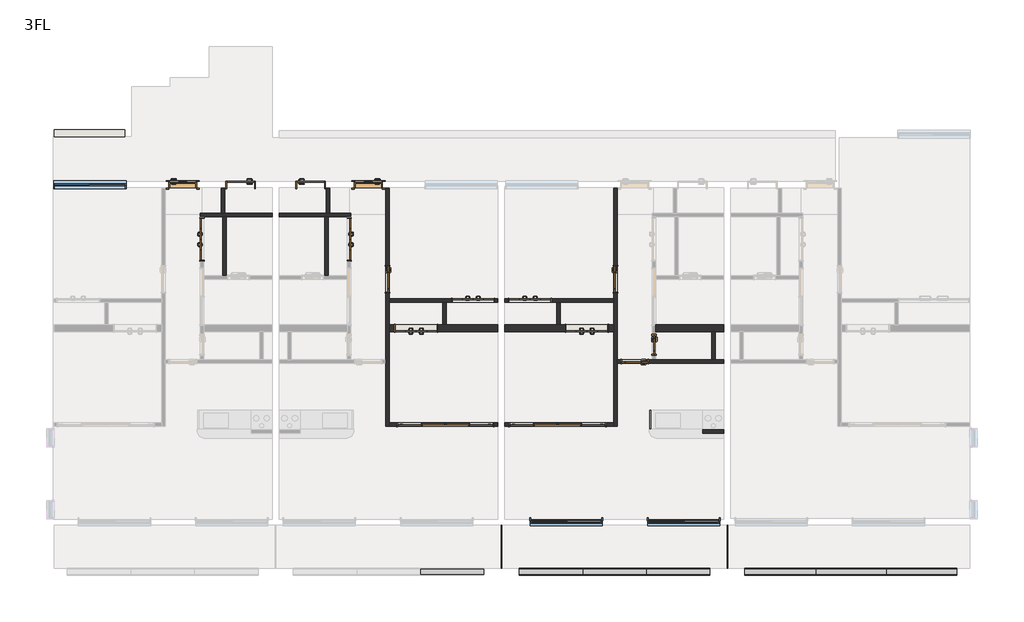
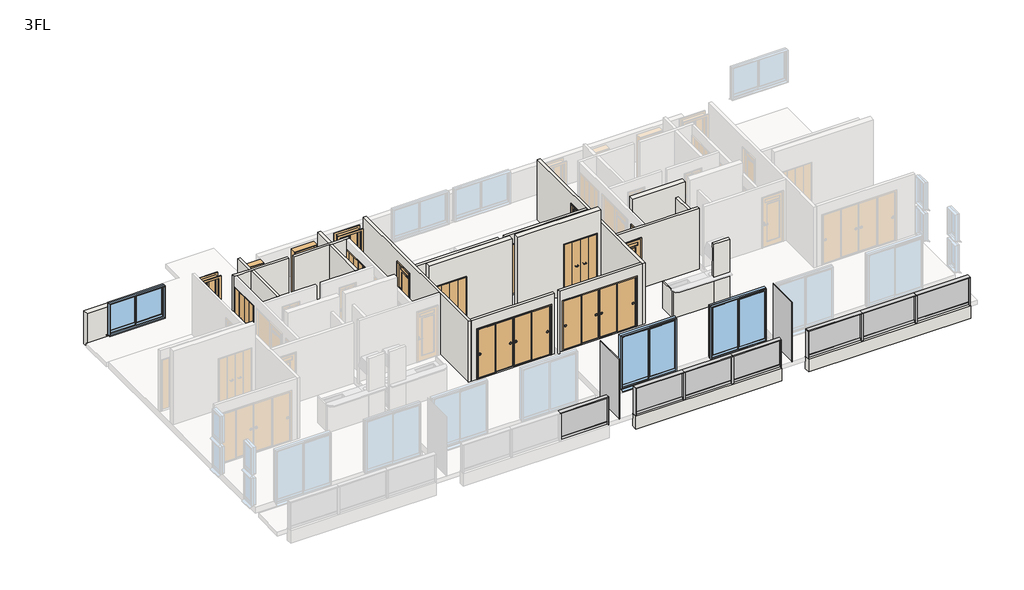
# One storey, part 2 of 3: 25 walls, 16 doors, 16 members, 9 plates, 3 windows.
"""IFC4 building model written with IfcOpenShell, lengths in millimetres."""

from ifc_helpers import new_model, si_unit, frame, origin, place, context, project, spatial, polyline, outline, extrude, faceted_brep, transform, mapped, element, save
from components import door_800x2000_a7d1584b, door_800x2000_010bfebf, w1200h2000_98cacc9b, w1200h2000_ebe1d490, w1200h2000_6a144d60, w1200h2000_99d19fb3, w2800h2000_670b855b, w2800h2000_04aa64cd, w600h2000_7f2747f4, w800h2000_1d97c4d4, w800h2000_0ab7d42c, w800h2000_13e9f519, w800h2000_ccb03061, member_25x150_3f8205e2, member_25x150_f694351b, member_25x150_e95393f9, member_70x150_851c8a9b, plate_6aa9e5b9, plate_9f48129f, plate_365944b3, plate_b830f844, plate_2f85ae4c, window_2000x1200_fc91d1cf, window_2000x2000_f1ff98da

model = new_model("IFC4")

# Units and contexts
model_context = context("Model", 3, world=origin())
ifc_project = project(units=[si_unit("LENGTHUNIT", "METRE", prefix="MILLI")], contexts=[model_context])

# Site, building, storey
site = spatial("IfcSite", under=ifc_project)
building = spatial("IfcBuilding", under=site)
storey = spatial("IfcBuildingStorey", under=building, Name="3FL", Elevation=7000.0)

# Doors
placement = place(None, origin())
door_800x2000_shape = door_800x2000_a7d1584b(model_context)
element("IfcDoor", 1, ObjectType="片開き3 : 800x2000", at=placement, inside=storey, context=model_context, shape_type="MappedRepresentation", body=[
    mapped(door_800x2000_shape, transform((-7378.7187246, -5726.3671638, 7000.0), x_axis=(1.0, 0.0, 0.0), y_axis=(0.0, 1.0, 0.0), z_axis=(0.0, 0.0, 1.0))),
])
door_800x2000_2_shape = door_800x2000_010bfebf(model_context)
element("IfcDoor", 2, ObjectType="片開き3 : 800x2000", at=placement, inside=storey, context=model_context, shape_type="MappedRepresentation", body=[
    mapped(door_800x2000_2_shape, transform((-2078.7187246, -5726.3671638, 7000.0), x_axis=(-1.0, 0.0, 0.0), y_axis=(0.0, -1.0, 0.0), z_axis=(0.0, 0.0, 1.0))),
])
w1200h2000_shape = w1200h2000_98cacc9b(model_context)
element("IfcDoor", 3, ObjectType="木製折戸 : w1200h2000", at=placement, inside=storey, context=model_context, shape_type="MappedRepresentation", body=[
    mapped(w1200h2000_shape, transform((4158.7812754, -9820.1171638, 7100.0), x_axis=(-1.0, 0.0, 0.0), y_axis=(0.0, -1.0, 0.0), z_axis=(0.0, 0.0, 1.0))),
])
w1200h2000_2_shape = w1200h2000_ebe1d490(model_context)
element("IfcDoor", 4, ObjectType="木製折戸 : w1200h2000", at=placement, inside=storey, context=model_context, shape_type="MappedRepresentation", body=[
    mapped(w1200h2000_2_shape, transform((-716.2187246, -9820.1171638, 7100.0), x_axis=(1.0, 0.0, 0.0), y_axis=(0.0, 1.0, 0.0), z_axis=(0.0, 0.0, 1.0))),
])
w1200h2000_3_shape = w1200h2000_6a144d60(model_context)
element("IfcDoor", 5, ObjectType="木製折戸 : w1200h2000", at=placement, inside=storey, context=model_context, shape_type="MappedRepresentation", body=[
    mapped(w1200h2000_3_shape, transform((-6828.7187246, -7280.1171638, 7100.0), x_axis=(0.0, 1.0, 0.0), y_axis=(-1.0, 0.0, 0.0), z_axis=(0.0, 0.0, 1.0))),
])
element("IfcDoor", 6, ObjectType="木製折戸 : w1200h2000", at=placement, inside=storey, context=model_context, shape_type="MappedRepresentation", body=[
    mapped(w1200h2000_3_shape, transform((2533.7812754, -9020.1171638, 7100.0), x_axis=(1.0, 0.0, 0.0), y_axis=(0.0, 1.0, 0.0), z_axis=(0.0, 0.0, 1.0))),
])
w1200h2000_4_shape = w1200h2000_99d19fb3(model_context)
element("IfcDoor", 7, ObjectType="木製折戸 : w1200h2000", at=placement, inside=storey, context=model_context, shape_type="MappedRepresentation", body=[
    mapped(w1200h2000_4_shape, transform((908.7812754, -9020.1171638, 7100.0), x_axis=(-1.0, 0.0, 0.0), y_axis=(0.0, -1.0, 0.0), z_axis=(0.0, 0.0, 1.0))),
])
element("IfcDoor", 8, ObjectType="木製折戸 : w1200h2000", at=placement, inside=storey, context=model_context, shape_type="MappedRepresentation", body=[
    mapped(w1200h2000_4_shape, transform((-2628.7187246, -7280.1171638, 7100.0), x_axis=(0.0, 1.0, 0.0), y_axis=(-1.0, 0.0, 0.0), z_axis=(0.0, 0.0, 1.0))),
])
w2800h2000_shape = w2800h2000_670b855b(model_context)
element("IfcDoor", 9, ObjectType="引違い 4 枚 2 溝_襖 : w2800h2000", at=placement, inside=storey, context=model_context, shape_type="MappedRepresentation", body=[
    mapped(w2800h2000_shape, transform((3315.7457714, -12570.1171638, 7100.0), x_axis=(-1.0, 0.0, 0.0), y_axis=(0.0, -1.0, 0.0), z_axis=(0.0, 0.0, 1.0))),
])
w2800h2000_2_shape = w2800h2000_04aa64cd(model_context)
element("IfcDoor", 10, ObjectType="引違い 4 枚 2 溝_襖 : w2800h2000", at=placement, inside=storey, context=model_context, shape_type="MappedRepresentation", body=[
    mapped(w2800h2000_2_shape, transform((126.8167793, -12570.1171638, 7100.0), x_axis=(1.0, 0.0, 0.0), y_axis=(0.0, 1.0, 0.0), z_axis=(0.0, 0.0, 1.0))),
])
w600h2000_shape = w600h2000_7f2747f4(model_context)
element("IfcDoor", 11, ObjectType="片開戸CL2058 : w600h2000", at=placement, inside=storey, context=model_context, shape_type="MappedRepresentation", body=[
    mapped(w600h2000_shape, transform((6071.2812754, -10295.1171638, 7100.0), x_axis=(0.0, -1.0, 0.0), y_axis=(1.0, 0.0, 0.0), z_axis=(0.0, 0.0, 1.0))),
])
w800h2000_shape = w800h2000_1d97c4d4(model_context)
element("IfcDoor", 12, ObjectType="片開 : w800h2000", at=placement, inside=storey, context=model_context, shape_type="MappedRepresentation", body=[
    mapped(w800h2000_shape, transform((-5728.7187246, -5726.3671638, 7000.0), x_axis=(-1.0, 0.0, 0.0), y_axis=(0.0, -1.0, 0.0), z_axis=(0.0, 0.0, 1.0))),
])
w800h2000_2_shape = w800h2000_0ab7d42c(model_context)
element("IfcDoor", 13, ObjectType="片開 : w800h2000", at=placement, inside=storey, context=model_context, shape_type="MappedRepresentation", body=[
    mapped(w800h2000_2_shape, transform((-3728.7187246, -5726.3671638, 7000.0), x_axis=(1.0, 0.0, 0.0), y_axis=(0.0, 1.0, 0.0), z_axis=(0.0, 0.0, 1.0))),
])
w800h2000_3_shape = w800h2000_13e9f519(model_context)
element("IfcDoor", 14, ObjectType="片開戸CL2058 : w800h2000", at=placement, inside=storey, context=model_context, shape_type="MappedRepresentation", body=[
    mapped(w800h2000_3_shape, transform((4971.2812754, -8420.1171638, 7100.0), x_axis=(0.0, -1.0, 0.0), y_axis=(1.0, 0.0, 0.0), z_axis=(0.0, 0.0, 1.0))),
])
w800h2000_4_shape = w800h2000_ccb03061(model_context)
element("IfcDoor", 15, ObjectType="片開戸CL2058 : w800h2000", at=placement, inside=storey, context=model_context, shape_type="MappedRepresentation", body=[
    mapped(w800h2000_4_shape, transform((-1528.7187246, -8420.1171638, 7100.0), x_axis=(0.0, -1.0, 0.0), y_axis=(1.0, 0.0, 0.0), z_axis=(0.0, 0.0, 1.0))),
])
element("IfcDoor", 16, ObjectType="片開戸CL2058 : w800h2000", at=placement, inside=storey, context=model_context, shape_type="MappedRepresentation", body=[
    mapped(w800h2000_4_shape, transform((5521.2812754, -10770.1171638, 7100.0), x_axis=(-1.0, 0.0, 0.0), y_axis=(0.0, -1.0, 0.0), z_axis=(0.0, 0.0, 1.0))),
])

# Members
member_25x150_shape = member_25x150_3f8205e2(model_context)
element("IfcMember", 17, ObjectType="長方形のマリオン : 25x150", at=placement, inside=storey, context=model_context, shape_type="MappedRepresentation", body=[
    mapped(member_25x150_shape, transform((1221.2812754, -16770.1171638, 7000.0), x_axis=(1.0, 0.0, 0.0), y_axis=(0.0, -1.0, 0.0), z_axis=(0.0, 0.0, -1.0))),
])
element("IfcMember", 18, ObjectType="長方形のマリオン : 25x150", at=placement, inside=storey, context=model_context, shape_type="MappedRepresentation", body=[
    mapped(member_25x150_shape, transform((7671.2812754, -16770.1171638, 7000.0), x_axis=(1.0, 0.0, 0.0), y_axis=(0.0, -1.0, 0.0), z_axis=(0.0, 0.0, -1.0))),
])
element("IfcMember", 19, ObjectType="長方形のマリオン : 25x150", at=placement, inside=storey, context=model_context, shape_type="MappedRepresentation", body=[
    mapped(member_25x150_shape, transform((14721.2812754, -16770.1171638, 7000.0), x_axis=(1.0, 0.0, 0.0), y_axis=(0.0, -1.0, 0.0), z_axis=(0.0, 0.0, -1.0))),
])
element("IfcMember", 20, ObjectType="長方形のマリオン : 25x150", at=placement, inside=storey, context=model_context, shape_type="MappedRepresentation", body=[
    mapped(member_25x150_shape, transform((2221.2812754, -16770.1171638, 8075.0), x_axis=(-1.0, 0.0, 0.0), y_axis=(0.0, -1.0, 0.0), z_axis=(0.0, 0.0, 1.0))),
])
element("IfcMember", 21, ObjectType="長方形のマリオン : 25x150", at=placement, inside=storey, context=model_context, shape_type="MappedRepresentation", body=[
    mapped(member_25x150_shape, transform((8671.2812754, -16770.1171638, 8075.0), x_axis=(-1.0, 0.0, 0.0), y_axis=(0.0, -1.0, 0.0), z_axis=(0.0, 0.0, 1.0))),
])
member_25x150_2_shape = member_25x150_f694351b(model_context)
element("IfcMember", 22, ObjectType="長方形のマリオン : 25x150", at=placement, inside=storey, context=model_context, shape_type="MappedRepresentation", body=[
    mapped(member_25x150_2_shape, transform((1221.2812754, -16770.1171638, 8100.0), x_axis=(0.0, 0.0, 1.0), y_axis=(0.0, -1.0, 0.0), z_axis=(1.0, 0.0, 0.0))),
])
element("IfcMember", 23, ObjectType="長方形のマリオン : 25x150", at=placement, inside=storey, context=model_context, shape_type="MappedRepresentation", body=[
    mapped(member_25x150_2_shape, transform((7671.2812754, -16770.1171638, 8100.0), x_axis=(0.0, 0.0, 1.0), y_axis=(0.0, -1.0, 0.0), z_axis=(1.0, 0.0, 0.0))),
])
element("IfcMember", 24, ObjectType="長方形のマリオン : 25x150", at=placement, inside=storey, context=model_context, shape_type="MappedRepresentation", body=[
    mapped(member_25x150_2_shape, transform((4037.947942, -16770.1171638, 8100.0), x_axis=(0.0, 0.0, 1.0), y_axis=(0.0, -1.0, 0.0), z_axis=(1.0, 0.0, 0.0))),
])
element("IfcMember", 25, ObjectType="長方形のマリオン : 25x150", at=placement, inside=storey, context=model_context, shape_type="MappedRepresentation", body=[
    mapped(member_25x150_2_shape, transform((5854.6146087, -16770.1171638, 8100.0), x_axis=(0.0, 0.0, 1.0), y_axis=(0.0, -1.0, 0.0), z_axis=(1.0, 0.0, 0.0))),
])
member_25x150_3_shape = member_25x150_e95393f9(model_context)
element("IfcMember", 26, ObjectType="長方形のマリオン : 25x150", at=placement, inside=storey, context=model_context, shape_type="MappedRepresentation", body=[
    mapped(member_25x150_3_shape, transform((14721.2812754, -16770.1171638, 8100.0), x_axis=(0.0, 0.0, 1.0), y_axis=(0.0, -1.0, 0.0), z_axis=(1.0, 0.0, 0.0))),
])
element("IfcMember", 27, ObjectType="長方形のマリオン : 25x150", at=placement, inside=storey, context=model_context, shape_type="MappedRepresentation", body=[
    mapped(member_25x150_3_shape, transform((10687.947942, -16770.1171638, 8100.0), x_axis=(0.0, 0.0, 1.0), y_axis=(0.0, -1.0, 0.0), z_axis=(1.0, 0.0, 0.0))),
])
element("IfcMember", 28, ObjectType="長方形のマリオン : 25x150", at=placement, inside=storey, context=model_context, shape_type="MappedRepresentation", body=[
    mapped(member_25x150_3_shape, transform((12704.6146087, -16770.1171638, 8100.0), x_axis=(0.0, 0.0, 1.0), y_axis=(0.0, -1.0, 0.0), z_axis=(1.0, 0.0, 0.0))),
])
member_70x150_shape = member_70x150_851c8a9b(model_context)
element("IfcMember", 29, ObjectType="長方形のマリオン : 70x150", at=placement, inside=storey, context=model_context, shape_type="MappedRepresentation", body=[
    mapped(member_70x150_shape, transform((4037.947942, -16770.1171638, 7000.0), x_axis=(1.0, 0.0, 0.0), y_axis=(0.0, -1.0, 0.0), z_axis=(0.0, 0.0, -1.0))),
])
element("IfcMember", 30, ObjectType="長方形のマリオン : 70x150", at=placement, inside=storey, context=model_context, shape_type="MappedRepresentation", body=[
    mapped(member_70x150_shape, transform((5854.6146087, -16770.1171638, 7000.0), x_axis=(1.0, 0.0, 0.0), y_axis=(0.0, -1.0, 0.0), z_axis=(0.0, 0.0, -1.0))),
])
element("IfcMember", 31, ObjectType="長方形のマリオン : 70x150", at=placement, inside=storey, context=model_context, shape_type="MappedRepresentation", body=[
    mapped(member_70x150_shape, transform((10687.947942, -16770.1171638, 7000.0), x_axis=(1.0, 0.0, 0.0), y_axis=(0.0, -1.0, 0.0), z_axis=(0.0, 0.0, -1.0))),
])
element("IfcMember", 32, ObjectType="長方形のマリオン : 70x150", at=placement, inside=storey, context=model_context, shape_type="MappedRepresentation", body=[
    mapped(member_70x150_shape, transform((12704.6146087, -16770.1171638, 7000.0), x_axis=(1.0, 0.0, 0.0), y_axis=(0.0, -1.0, 0.0), z_axis=(0.0, 0.0, -1.0))),
])

# Plates
plate_shape = plate_6aa9e5b9(model_context)
element("IfcPlate", 33, ObjectType="システム パネル : 標準", at=placement, inside=storey, context=model_context, shape_type="MappedRepresentation", body=[
    mapped(plate_shape, transform((1721.2812754, -16056.9921638, 6950.0), x_axis=(0.0, -1.0, 0.0), y_axis=(1.0, 0.0, 0.0), z_axis=(0.0, 0.0, 1.0))),
])
element("IfcPlate", 34, ObjectType="システム パネル : 標準", at=placement, inside=storey, context=model_context, shape_type="MappedRepresentation", body=[
    mapped(plate_shape, transform((8171.2812754, -16056.9921638, 6950.0), x_axis=(0.0, -1.0, 0.0), y_axis=(1.0, 0.0, 0.0), z_axis=(0.0, 0.0, 1.0))),
])
plate_2_shape = plate_9f48129f(model_context)
element("IfcPlate", 35, ObjectType="r パネル FIX 下框付 : 框 H100", at=placement, inside=storey, context=model_context, shape_type="MappedRepresentation", body=[
    mapped(plate_2_shape, transform((317.947942, -16770.1171638, 7000.0), x_axis=(1.0, 0.0, 0.0), y_axis=(0.0, 1.0, 0.0), z_axis=(0.0, 0.0, 1.0))),
])
element("IfcPlate", 36, ObjectType="r パネル FIX 下框付 : 框 H100", at=placement, inside=storey, context=model_context, shape_type="MappedRepresentation", body=[
    mapped(plate_2_shape, transform((3124.6146087, -16770.1171638, 7000.0), x_axis=(1.0, 0.0, 0.0), y_axis=(0.0, 1.0, 0.0), z_axis=(0.0, 0.0, 1.0))),
])
element("IfcPlate", 37, ObjectType="r パネル FIX 下框付 : 框 H100", at=placement, inside=storey, context=model_context, shape_type="MappedRepresentation", body=[
    mapped(plate_2_shape, transform((6767.947942, -16770.1171638, 7000.0), x_axis=(1.0, 0.0, 0.0), y_axis=(0.0, 1.0, 0.0), z_axis=(0.0, 0.0, 1.0))),
])
plate_3_shape = plate_365944b3(model_context)
element("IfcPlate", 38, ObjectType="r パネル FIX 下框付 : 框 H100", at=placement, inside=storey, context=model_context, shape_type="MappedRepresentation", body=[
    mapped(plate_3_shape, transform((4946.2812754, -16770.1171638, 7000.0), x_axis=(1.0, 0.0, 0.0), y_axis=(0.0, 1.0, 0.0), z_axis=(0.0, 0.0, 1.0))),
])
plate_4_shape = plate_b830f844(model_context)
element("IfcPlate", 39, ObjectType="r パネル FIX 下框付 : 框 H100", at=placement, inside=storey, context=model_context, shape_type="MappedRepresentation", body=[
    mapped(plate_4_shape, transform((9674.6146087, -16770.1171638, 7000.0), x_axis=(1.0, 0.0, 0.0), y_axis=(0.0, 1.0, 0.0), z_axis=(0.0, 0.0, 1.0))),
])
element("IfcPlate", 40, ObjectType="r パネル FIX 下框付 : 框 H100", at=placement, inside=storey, context=model_context, shape_type="MappedRepresentation", body=[
    mapped(plate_4_shape, transform((13717.947942, -16770.1171638, 7000.0), x_axis=(1.0, 0.0, 0.0), y_axis=(0.0, 1.0, 0.0), z_axis=(0.0, 0.0, 1.0))),
])
plate_5_shape = plate_2f85ae4c(model_context)
element("IfcPlate", 41, ObjectType="r パネル FIX 下框付 : 框 H100", at=placement, inside=storey, context=model_context, shape_type="MappedRepresentation", body=[
    mapped(plate_5_shape, transform((11696.2812754, -16770.1171638, 7000.0), x_axis=(1.0, 0.0, 0.0), y_axis=(0.0, 1.0, 0.0), z_axis=(0.0, 0.0, 1.0))),
])

# Walls
element("IfcWall", 42, ObjectType="内壁(R)RC200", at=placement, inside=storey, context=model_context, shape_type="Brep", body=[
    faceted_brep([(1621.2812754, -9720.1171638, 7000.0), (146.2812754, -9720.1171638, 7000.0), (46.2812754, -9720.1171638, 7000.0), (-1478.7187246, -9720.1171638, 7000.0), (-1478.7187246, -9720.1171638, 10000.0), (1621.2812754, -9720.1171638, 10000.0), (-96.2187246, -9720.1171638, 9120.0), (-1336.2187246, -9720.1171638, 9120.0), (-1336.2187246, -9720.1171638, 7100.0), (-96.2187246, -9720.1171638, 7100.0), (1621.2812754, -9920.1171638, 7000.0), (1621.2812754, -9920.1171638, 10000.0), (-1478.7187246, -9920.1171638, 10000.0), (-1478.7187246, -9920.1171638, 7000.0), (-96.2187246, -9920.1171638, 9120.0), (-96.2187246, -9920.1171638, 7100.0), (-1336.2187246, -9920.1171638, 7100.0), (-1336.2187246, -9920.1171638, 9120.0)], [[[0, 1, 2, 3, 4, 5], [6, 7, 8, 9]], [[10, 11, 12, 13], [14, 15, 16, 17]], [[3, 2, 1, 0, 10, 13]], [[5, 4, 12, 11]], [[15, 14, 6, 9]], [[16, 15, 9, 8]], [[17, 16, 8, 7]], [[14, 17, 7, 6]], [[0, 5, 11, 10]], [[4, 3, 13, 12]]]),
])
element("IfcWall", 43, ObjectType="内壁(R)RC200", at=placement, inside=storey, context=model_context, shape_type="Brep", body=[
    faceted_brep([(1821.2812754, -9920.1171638, 7000.0), (4921.2812754, -9920.1171638, 7000.0), (4921.2812754, -9920.1171638, 10000.0), (1821.2812754, -9920.1171638, 10000.0), (3538.7812754, -9920.1171638, 9120.0), (4778.7812754, -9920.1171638, 9120.0), (4778.7812754, -9920.1171638, 7100.0), (3538.7812754, -9920.1171638, 7100.0), (1821.2812754, -9720.1171638, 7000.0), (1821.2812754, -9720.1171638, 10000.0), (4921.2812754, -9720.1171638, 10000.0), (4921.2812754, -9720.1171638, 7000.0), (3396.2812754, -9720.1171638, 7000.0), (3296.2812754, -9720.1171638, 7000.0), (3538.7812754, -9720.1171638, 9120.0), (3538.7812754, -9720.1171638, 7100.0), (4778.7812754, -9720.1171638, 7100.0), (4778.7812754, -9720.1171638, 9120.0)], [[[0, 1, 2, 3], [4, 5, 6, 7]], [[8, 9, 10, 11, 12, 13], [14, 15, 16, 17]], [[1, 0, 8, 13, 12, 11]], [[3, 2, 10, 9]], [[15, 14, 4, 7]], [[16, 15, 7, 6]], [[17, 16, 6, 5]], [[14, 17, 5, 4]], [[0, 3, 9, 8]], [[2, 1, 11, 10]]]),
])
element("IfcWall", 44, ObjectType="内壁(R)RC200", at=placement, inside=storey, context=model_context, shape_type="Brep", body=[
    faceted_brep([(6121.2812754, -9920.1171638, 7000.0), (7721.2812754, -9920.1171638, 7000.0), (7821.2812754, -9920.1171638, 7000.0), (8071.2812754, -9920.1171638, 7000.0), (8071.2812754, -9920.1171638, 10000.0), (6121.2812754, -9920.1171638, 10000.0), (6121.2812754, -9720.1171638, 7000.0), (6121.2812754, -9720.1171638, 10000.0), (8071.2812754, -9720.1171638, 10000.0), (8071.2812754, -9720.1171638, 7000.0)], [[[0, 1, 2, 3, 4, 5]], [[6, 7, 8, 9]], [[3, 2, 1, 0, 6, 9]], [[5, 4, 8, 7]], [[0, 5, 7, 6]], [[4, 3, 9, 8]]]),
])
element("IfcWall", 45, ObjectType="(R)RC200", at=placement, inside=storey, context=model_context, shape_type="SweptSolid", body=[
    extrude(outline(polyline([(-9028.7187246, -4350.1171638), (-11052.4687246, -4350.1171638), (-11052.4687246, -4150.1171638), (-9028.7187246, -4150.1171638), (-9028.7187246, -4350.1171638)])), frame((0.0, 0.0, 6800.0), z_axis=(0.0, 0.0, 1.0), x_axis=(1.0, 0.0, 0.0)), (0.0, 0.0, 1.0), 1300.0),
])
element("IfcWall", 46, ObjectType="(R)RC200", at=placement, inside=storey, context=model_context, shape_type="SweptSolid", body=[
    extrude(outline(polyline([(7671.2812754, -16870.1171638), (2221.2812754, -16870.1171638), (2221.2812754, -16670.1171638), (7671.2812754, -16670.1171638), (7671.2812754, -16870.1171638)])), frame((0.0, 0.0, 6500.0), z_axis=(0.0, 0.0, 1.0), x_axis=(1.0, 0.0, 0.0)), (0.0, 0.0, 1.0), 500.0),
])
element("IfcWall", 47, ObjectType="(R)RC200", at=placement, inside=storey, context=model_context, shape_type="SweptSolid", body=[
    extrude(outline(polyline([(14721.2812754, -16870.1171638), (8671.2812754, -16870.1171638), (8671.2812754, -16670.1171638), (14721.2812754, -16670.1171638), (14721.2812754, -16870.1171638)])), frame((0.0, 0.0, 6500.0), z_axis=(0.0, 0.0, 1.0), x_axis=(1.0, 0.0, 0.0)), (0.0, 0.0, 1.0), 500.0),
])
element("IfcWall", 48, ObjectType="(F)30", at=placement, inside=storey, context=model_context, shape_type="SweptSolid", body=[
    extrude(outline(polyline([(5948.8875596, -12720.1171638), (5948.8875596, -12165.1171638), (5978.8875596, -12165.1171638), (5978.8875596, -12720.1171638), (5948.8875596, -12720.1171638)])), frame((0.0, 0.0, 7100.0), z_axis=(0.0, 0.0, 1.0), x_axis=(1.0, 0.0, 0.0)), (0.0, 0.0, 1.0), 1060.0),
])
element("IfcWall", 49, ObjectType="(L1)LGS100", at=placement, inside=storey, context=model_context, shape_type="Brep", body=[
    faceted_brep([(-6878.7187246, -6630.1171638, 7000.0), (-6778.7187246, -6630.1171638, 7000.0), (-6238.7187246, -6630.1171638, 7000.0), (-6138.7187246, -6630.1171638, 7000.0), (-4828.7187246, -6630.1171638, 7000.0), (-4828.7187246, -6630.1171638, 9500.0), (-6138.7187246, -6630.1171638, 9500.0), (-6238.7187246, -6630.1171638, 9500.0), (-6778.7187246, -6630.1171638, 9500.0), (-6878.7187246, -6630.1171638, 9500.0), (-6878.7187246, -6530.1171638, 7000.0), (-6878.7187246, -6530.1171638, 9500.0), (-6278.7187246, -6530.1171638, 9500.0), (-6178.7187246, -6530.1171638, 9500.0), (-4828.7187246, -6530.1171638, 9500.0), (-4828.7187246, -6530.1171638, 7000.0), (-6178.7187246, -6530.1171638, 7000.0), (-6278.7187246, -6530.1171638, 7000.0)], [[[0, 1, 2, 3, 4, 5, 6, 7, 8, 9]], [[10, 11, 12, 13, 14, 15, 16, 17]], [[4, 3, 2, 1, 0, 10, 17, 16, 15]], [[9, 8, 7, 6, 5, 14, 13, 12, 11]], [[0, 9, 11, 10]], [[5, 4, 15, 14]]]),
])
element("IfcWall", 50, ObjectType="(L1)LGS100", at=placement, inside=storey, context=model_context, shape_type="SweptSolid", body=[
    extrude(outline(polyline([(-6178.7187246, -5826.3671638), (-6178.7187246, -6530.1171638), (-6278.7187246, -6530.1171638), (-6278.7187246, -5826.3671638), (-6178.7187246, -5826.3671638)])), frame((0.0, 0.0, 7000.0), z_axis=(0.0, 0.0, 1.0), x_axis=(1.0, 0.0, 0.0)), (0.0, 0.0, 1.0), 2500.0),
])
element("IfcWall", 51, ObjectType="(L1)LGS100", at=placement, inside=storey, context=model_context, shape_type="SweptSolid", body=[
    extrude(outline(polyline([(-6138.7187246, -6630.1171638), (-6138.7187246, -8320.1171638), (-6238.7187246, -8320.1171638), (-6238.7187246, -6630.1171638), (-6138.7187246, -6630.1171638)])), frame((0.0, 0.0, 7000.0), z_axis=(0.0, 0.0, 1.0), x_axis=(1.0, 0.0, 0.0)), (0.0, 0.0, 1.0), 2500.0),
])
element("IfcWall", 52, ObjectType="(L1)LGS100", at=placement, inside=storey, context=model_context, shape_type="Brep", body=[
    faceted_brep([(1621.2812754, -8970.1171638, 7000.0), (-1478.7187246, -8970.1171638, 7000.0), (-1478.7187246, -8970.1171638, 9500.0), (1621.2812754, -8970.1171638, 9500.0), (288.7812754, -8970.1171638, 9120.0), (288.7812754, -8970.1171638, 7100.0), (1528.7812754, -8970.1171638, 7100.0), (1528.7812754, -8970.1171638, 9120.0), (-1478.7187246, -9070.1171638, 7000.0), (46.2812754, -9070.1171638, 7000.0), (146.2812754, -9070.1171638, 7000.0), (1621.2812754, -9070.1171638, 7000.0), (1621.2812754, -9070.1171638, 9500.0), (146.2812754, -9070.1171638, 9500.0), (46.2812754, -9070.1171638, 9500.0), (-1478.7187246, -9070.1171638, 9500.0), (288.7812754, -9070.1171638, 7100.0), (288.7812754, -9070.1171638, 9120.0), (1528.7812754, -9070.1171638, 9120.0), (1528.7812754, -9070.1171638, 7100.0)], [[[0, 1, 2, 3], [4, 5, 6, 7]], [[8, 9, 10, 11, 12, 13, 14, 15], [16, 17, 18, 19]], [[1, 0, 11, 10, 9, 8]], [[3, 2, 15, 14, 13, 12]], [[2, 1, 8, 15]], [[4, 17, 16, 5]], [[5, 16, 19, 6]], [[17, 4, 7, 18]], [[18, 7, 6, 19]], [[0, 3, 12, 11]]]),
])
element("IfcWall", 53, ObjectType="(L1)LGS100", at=placement, inside=storey, context=model_context, shape_type="SweptSolid", body=[
    extrude(outline(polyline([(146.2812754, -9070.1171638), (146.2812754, -9720.1171638), (46.2812754, -9720.1171638), (46.2812754, -9070.1171638), (146.2812754, -9070.1171638)])), frame((0.0, 0.0, 7000.0), z_axis=(0.0, 0.0, 1.0), x_axis=(1.0, 0.0, 0.0)), (0.0, 0.0, 1.0), 2500.0),
])
element("IfcWall", 54, ObjectType="(L1)LGS100", at=placement, inside=storey, context=model_context, shape_type="Brep", body=[
    faceted_brep([(-1478.7187246, -12620.1171638, 7000.0), (-1478.7187246, -12520.1171638, 7000.0), (-1478.7187246, -9920.1171638, 7000.0), (-1478.7187246, -9720.1171638, 7000.0), (-1478.7187246, -9070.1171638, 7000.0), (-1478.7187246, -8970.1171638, 7000.0), (-1478.7187246, -5826.3671638, 7000.0), (-1478.7187246, -5826.3671638, 9500.0), (-1478.7187246, -8970.1171638, 9500.0), (-1478.7187246, -9070.1171638, 9500.0), (-1478.7187246, -12520.1171638, 9500.0), (-1478.7187246, -12620.1171638, 9500.0), (-1478.7187246, -8820.1171638, 7100.0), (-1478.7187246, -8820.1171638, 9100.0), (-1478.7187246, -8020.1171638, 9100.0), (-1478.7187246, -8020.1171638, 7100.0), (-1578.7187246, -12620.1171638, 7000.0), (-1578.7187246, -12620.1171638, 9500.0), (-1578.7187246, -10820.1171638, 9500.0), (-1578.7187246, -10720.1171638, 9500.0), (-1578.7187246, -5826.3671638, 9500.0), (-1578.7187246, -5826.3671638, 7000.0), (-1578.7187246, -10720.1171638, 7000.0), (-1578.7187246, -10820.1171638, 7000.0), (-1578.7187246, -8820.1171638, 7100.0), (-1578.7187246, -8020.1171638, 7100.0), (-1578.7187246, -8020.1171638, 9100.0), (-1578.7187246, -8820.1171638, 9100.0)], [[[0, 1, 2, 3, 4, 5, 6, 7, 8, 9, 10, 11], [12, 13, 14, 15]], [[16, 17, 18, 19, 20, 21, 22, 23], [24, 25, 26, 27]], [[6, 5, 4, 3, 2, 1, 0, 16, 23, 22, 21]], [[11, 10, 9, 8, 7, 20, 19, 18, 17]], [[0, 11, 17, 16]], [[13, 12, 24, 27]], [[14, 13, 27, 26]], [[15, 14, 26, 25]], [[12, 15, 25, 24]], [[7, 6, 21, 20]]]),
])
element("IfcWall", 55, ObjectType="(L1)LGS100", at=placement, inside=storey, context=model_context, shape_type="Brep", body=[
    faceted_brep([(-2578.7187246, -6530.1171638, 7000.0), (-3178.7187246, -6530.1171638, 7000.0), (-3278.7187246, -6530.1171638, 7000.0), (-4628.7187246, -6530.1171638, 7000.0), (-4628.7187246, -6530.1171638, 9500.0), (-3278.7187246, -6530.1171638, 9500.0), (-3178.7187246, -6530.1171638, 9500.0), (-2578.7187246, -6530.1171638, 9500.0), (-2578.7187246, -6630.1171638, 7000.0), (-2578.7187246, -6630.1171638, 9500.0), (-2678.7187246, -6630.1171638, 9500.0), (-3218.7187246, -6630.1171638, 9500.0), (-3318.7187246, -6630.1171638, 9500.0), (-4628.7187246, -6630.1171638, 9500.0), (-4628.7187246, -6630.1171638, 7000.0), (-3318.7187246, -6630.1171638, 7000.0), (-3218.7187246, -6630.1171638, 7000.0), (-2678.7187246, -6630.1171638, 7000.0)], [[[0, 1, 2, 3, 4, 5, 6, 7]], [[8, 9, 10, 11, 12, 13, 14, 15, 16, 17]], [[3, 2, 1, 0, 8, 17, 16, 15, 14]], [[7, 6, 5, 4, 13, 12, 11, 10, 9]], [[0, 7, 9, 8]], [[4, 3, 14, 13]]]),
])
element("IfcWall", 56, ObjectType="(L1)LGS100", at=placement, inside=storey, context=model_context, shape_type="SweptSolid", body=[
    extrude(outline(polyline([(-3178.7187246, -5826.3671638), (-3178.7187246, -6530.1171638), (-3278.7187246, -6530.1171638), (-3278.7187246, -5826.3671638), (-3178.7187246, -5826.3671638)])), frame((0.0, 0.0, 7000.0), z_axis=(0.0, 0.0, 1.0), x_axis=(1.0, 0.0, 0.0)), (0.0, 0.0, 1.0), 2500.0),
])
element("IfcWall", 57, ObjectType="(L1)LGS100", at=placement, inside=storey, context=model_context, shape_type="SweptSolid", body=[
    extrude(outline(polyline([(-3218.7187246, -6630.1171638), (-3218.7187246, -8320.1171638), (-3318.7187246, -8320.1171638), (-3318.7187246, -6630.1171638), (-3218.7187246, -6630.1171638)])), frame((0.0, 0.0, 7000.0), z_axis=(0.0, 0.0, 1.0), x_axis=(1.0, 0.0, 0.0)), (0.0, 0.0, 1.0), 2500.0),
])
element("IfcWall", 58, ObjectType="(L1)LGS100", at=placement, inside=storey, context=model_context, shape_type="SweptSolid", body=[
    extrude(outline(polyline([(7000.0, 1621.2812754), (9500.0, 1621.2812754), (9500.0, -1478.7187246), (7000.0, -1478.7187246), (7000.0, 1621.2812754)]), holes=[polyline([(9100.0, 1521.2812754), (7100.0, 1521.2812754), (7100.0, -1278.7187246), (9100.0, -1278.7187246), (9100.0, 1521.2812754)])]), frame((0.0, -12620.1171638, 0.0), z_axis=(0.0, 1.0, 0.0), x_axis=(0.0, 0.0, 1.0)), (0.0, 0.0, 1.0), 100.0),
])
element("IfcWall", 59, ObjectType="(L1)LGS100", at=placement, inside=storey, context=model_context, shape_type="Brep", body=[
    faceted_brep([(1821.2812754, -9070.1171638, 7000.0), (3296.2812754, -9070.1171638, 7000.0), (3396.2812754, -9070.1171638, 7000.0), (4921.2812754, -9070.1171638, 7000.0), (4921.2812754, -9070.1171638, 9500.0), (3396.2812754, -9070.1171638, 9500.0), (3296.2812754, -9070.1171638, 9500.0), (1821.2812754, -9070.1171638, 9500.0), (3153.7812754, -9070.1171638, 9120.0), (3153.7812754, -9070.1171638, 7100.0), (1913.7812754, -9070.1171638, 7100.0), (1913.7812754, -9070.1171638, 9120.0), (4921.2812754, -8970.1171638, 7000.0), (1821.2812754, -8970.1171638, 7000.0), (1821.2812754, -8970.1171638, 9500.0), (4921.2812754, -8970.1171638, 9500.0), (3153.7812754, -8970.1171638, 7100.0), (3153.7812754, -8970.1171638, 9120.0), (1913.7812754, -8970.1171638, 9120.0), (1913.7812754, -8970.1171638, 7100.0)], [[[0, 1, 2, 3, 4, 5, 6, 7], [8, 9, 10, 11]], [[12, 13, 14, 15], [16, 17, 18, 19]], [[3, 2, 1, 0, 13, 12]], [[7, 6, 5, 4, 15, 14]], [[4, 3, 12, 15]], [[8, 17, 16, 9]], [[9, 16, 19, 10]], [[17, 8, 11, 18]], [[18, 11, 10, 19]], [[0, 7, 14, 13]]]),
])
element("IfcWall", 60, ObjectType="(L1)LGS100", at=placement, inside=storey, context=model_context, shape_type="SweptSolid", body=[
    extrude(outline(polyline([(3396.2812754, -9070.1171638), (3396.2812754, -9720.1171638), (3296.2812754, -9720.1171638), (3296.2812754, -9070.1171638), (3396.2812754, -9070.1171638)])), frame((0.0, 0.0, 7000.0), z_axis=(0.0, 0.0, 1.0), x_axis=(1.0, 0.0, 0.0)), (0.0, 0.0, 1.0), 2500.0),
])
element("IfcWall", 61, ObjectType="(L1)LGS100", at=placement, inside=storey, context=model_context, shape_type="Brep", body=[
    faceted_brep([(5021.2812754, -12620.1171638, 7000.0), (5021.2812754, -10820.1171638, 7000.0), (5021.2812754, -10720.1171638, 7000.0), (5021.2812754, -5826.3671638, 7000.0), (5021.2812754, -5826.3671638, 9500.0), (5021.2812754, -10720.1171638, 9500.0), (5021.2812754, -10820.1171638, 9500.0), (5021.2812754, -12620.1171638, 9500.0), (5021.2812754, -8820.1171638, 7100.0), (5021.2812754, -8820.1171638, 9100.0), (5021.2812754, -8020.1171638, 9100.0), (5021.2812754, -8020.1171638, 7100.0), (4921.2812754, -12620.1171638, 7000.0), (4921.2812754, -12620.1171638, 9500.0), (4921.2812754, -12520.1171638, 9500.0), (4921.2812754, -9070.1171638, 9500.0), (4921.2812754, -8970.1171638, 9500.0), (4921.2812754, -5826.3671638, 9500.0), (4921.2812754, -5826.3671638, 7000.0), (4921.2812754, -8970.1171638, 7000.0), (4921.2812754, -9070.1171638, 7000.0), (4921.2812754, -9720.1171638, 7000.0), (4921.2812754, -9920.1171638, 7000.0), (4921.2812754, -12520.1171638, 7000.0), (4921.2812754, -8820.1171638, 7100.0), (4921.2812754, -8020.1171638, 7100.0), (4921.2812754, -8020.1171638, 9100.0), (4921.2812754, -8820.1171638, 9100.0)], [[[0, 1, 2, 3, 4, 5, 6, 7], [8, 9, 10, 11]], [[12, 13, 14, 15, 16, 17, 18, 19, 20, 21, 22, 23], [24, 25, 26, 27]], [[3, 2, 1, 0, 12, 23, 22, 21, 20, 19, 18]], [[7, 6, 5, 4, 17, 16, 15, 14, 13]], [[0, 7, 13, 12]], [[9, 8, 24, 27]], [[10, 9, 27, 26]], [[11, 10, 26, 25]], [[8, 11, 25, 24]], [[4, 3, 18, 17]]]),
])
element("IfcWall", 62, ObjectType="(L1)LGS100", at=placement, inside=storey, context=model_context, shape_type="SweptSolid", body=[
    extrude(outline(polyline([(7821.2812754, -9920.1171638), (7821.2812754, -10720.1171638), (7721.2812754, -10720.1171638), (7721.2812754, -9920.1171638), (7821.2812754, -9920.1171638)])), frame((0.0, 0.0, 7000.0), z_axis=(0.0, 0.0, 1.0), x_axis=(1.0, 0.0, 0.0)), (0.0, 0.0, 1.0), 2500.0),
])
element("IfcWall", 63, ObjectType="(L1)LGS100", at=placement, inside=storey, context=model_context, shape_type="Brep", body=[
    faceted_brep([(5021.2812754, -10820.1171638, 7000.0), (8071.2812754, -10820.1171638, 7000.0), (8071.2812754, -10820.1171638, 9500.0), (5021.2812754, -10820.1171638, 9500.0), (5121.2812754, -10820.1171638, 7100.0), (5121.2812754, -10820.1171638, 9100.0), (5921.2812754, -10820.1171638, 9100.0), (5921.2812754, -10820.1171638, 7100.0), (8071.2812754, -10720.1171638, 7000.0), (7821.2812754, -10720.1171638, 7000.0), (7721.2812754, -10720.1171638, 7000.0), (6121.2812754, -10720.1171638, 7000.0), (6021.2812754, -10720.1171638, 7000.0), (5021.2812754, -10720.1171638, 7000.0), (5021.2812754, -10720.1171638, 9500.0), (6021.2812754, -10720.1171638, 9500.0), (6121.2812754, -10720.1171638, 9500.0), (7721.2812754, -10720.1171638, 9500.0), (7821.2812754, -10720.1171638, 9500.0), (8071.2812754, -10720.1171638, 9500.0), (5121.2812754, -10720.1171638, 9100.0), (5121.2812754, -10720.1171638, 7100.0), (5921.2812754, -10720.1171638, 7100.0), (5921.2812754, -10720.1171638, 9100.0)], [[[0, 1, 2, 3], [4, 5, 6, 7]], [[8, 9, 10, 11, 12, 13, 14, 15, 16, 17, 18, 19], [20, 21, 22, 23]], [[1, 0, 13, 12, 11, 10, 9, 8]], [[3, 2, 19, 18, 17, 16, 15, 14]], [[0, 3, 14, 13]], [[4, 21, 20, 5]], [[5, 20, 23, 6]], [[6, 23, 22, 7]], [[21, 4, 7, 22]], [[2, 1, 8, 19]]]),
])
element("IfcWall", 64, ObjectType="(L1)LGS100", at=placement, inside=storey, context=model_context, shape_type="SweptSolid", body=[
    extrude(outline(polyline([(7000.0, 1821.2812754), (7000.0, 4921.2812754), (9500.0, 4921.2812754), (9500.0, 1821.2812754), (7000.0, 1821.2812754)]), holes=[polyline([(9100.0, 1921.2812754), (9100.0, 4721.2812754), (7100.0, 4721.2812754), (7100.0, 1921.2812754), (9100.0, 1921.2812754)])]), frame((0.0, -12620.1171638, 0.0), z_axis=(0.0, 1.0, 0.0), x_axis=(0.0, 0.0, 1.0)), (0.0, 0.0, 1.0), 100.0),
])
element("IfcWall", 65, ObjectType="(L1)LGS100", at=placement, inside=storey, context=model_context, shape_type="Brep", body=[
    faceted_brep([(8071.2812754, -12720.1171638, 7000.0), (7471.2812754, -12720.1171638, 7000.0), (7471.2812754, -12720.1171638, 8160.0), (7471.2812754, -12720.1171638, 9500.0), (8071.2812754, -12720.1171638, 9500.0), (8071.2812754, -12820.1171638, 7000.0), (8071.2812754, -12820.1171638, 9500.0), (7471.2812754, -12820.1171638, 9500.0), (7471.2812754, -12820.1171638, 8160.0), (7471.2812754, -12820.1171638, 7000.0)], [[[0, 1, 2, 3, 4]], [[5, 6, 7, 8, 9]], [[1, 0, 5, 9]], [[3, 2, 1, 9, 8, 7]], [[4, 3, 7, 6]], [[0, 4, 6, 5]]]),
])
element("IfcWall", 66, ObjectType="(L1)LGS100", at=placement, inside=storey, context=model_context, shape_type="Brep", body=[
    faceted_brep([(5948.8875596, -12820.1171638, 7000.0), (7471.2812754, -12820.1171638, 7000.0), (7471.2812754, -12820.1171638, 8160.0), (5948.8875596, -12820.1171638, 8160.0), (5948.8875596, -12720.1171638, 7000.0), (5948.8875596, -12720.1171638, 7100.0), (5948.8875596, -12720.1171638, 8160.0), (5978.8875596, -12720.1171638, 8160.0), (7471.2812754, -12720.1171638, 8160.0), (7471.2812754, -12720.1171638, 7000.0)], [[[0, 1, 2, 3]], [[4, 5, 6, 7, 8, 9]], [[1, 0, 4, 9]], [[2, 1, 9, 8]], [[3, 2, 8, 7, 6]], [[0, 3, 6, 5, 4]]]),
])

# Windows
window_2000x1200_shape = window_2000x1200_fc91d1cf(model_context)
element("IfcWindow", 67, ObjectType="鋼製_一般枠_引違い-二枚 : 2000x1200", at=placement, inside=storey, context=model_context, shape_type="MappedRepresentation", body=[
    mapped(window_2000x1200_shape, transform((-10028.7187246, -5726.3671638, 7250.0), x_axis=(1.0, 0.0, 0.0), y_axis=(0.0, 1.0, 0.0), z_axis=(0.0, 0.0, 1.0))),
])
window_2000x2000_shape = window_2000x2000_f1ff98da(model_context)
element("IfcWindow", 68, ObjectType="鋼製_一般枠_引違い-二枚 : 2000x2000", at=placement, inside=storey, context=model_context, shape_type="MappedRepresentation", body=[
    mapped(window_2000x2000_shape, transform((3571.2812754, -15343.8671638, 6200.0), x_axis=(-1.0, 0.0, 0.0), y_axis=(0.0, -1.0, 0.0), z_axis=(0.0, 0.0, 1.0))),
])
element("IfcWindow", 69, ObjectType="鋼製_一般枠_引違い-二枚 : 2000x2000", at=placement, inside=storey, context=model_context, shape_type="MappedRepresentation", body=[
    mapped(window_2000x2000_shape, transform((6921.2812754, -15343.8671638, 6200.0), x_axis=(-1.0, 0.0, 0.0), y_axis=(0.0, -1.0, 0.0), z_axis=(0.0, 0.0, 1.0))),
])

save(model, "model.ifc")
